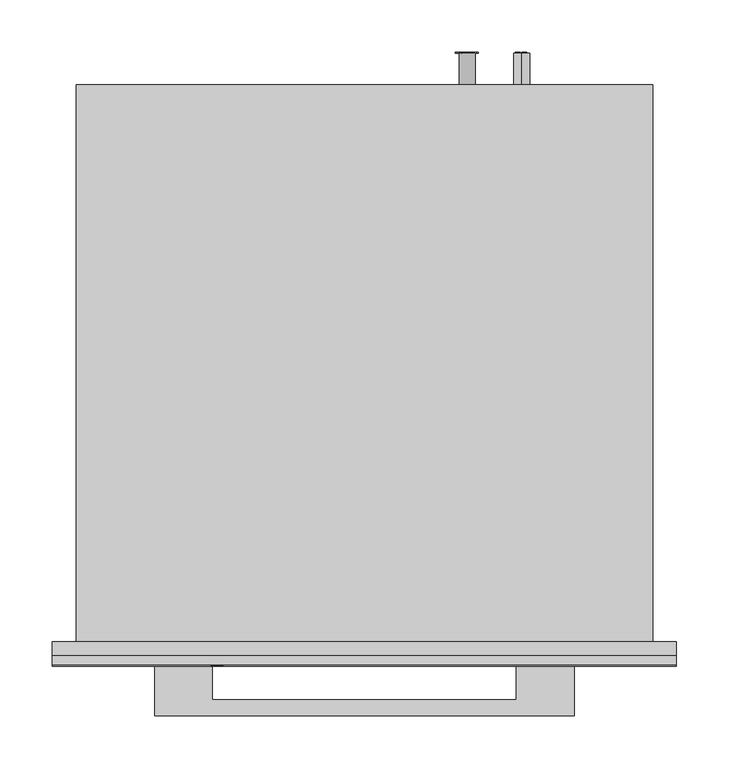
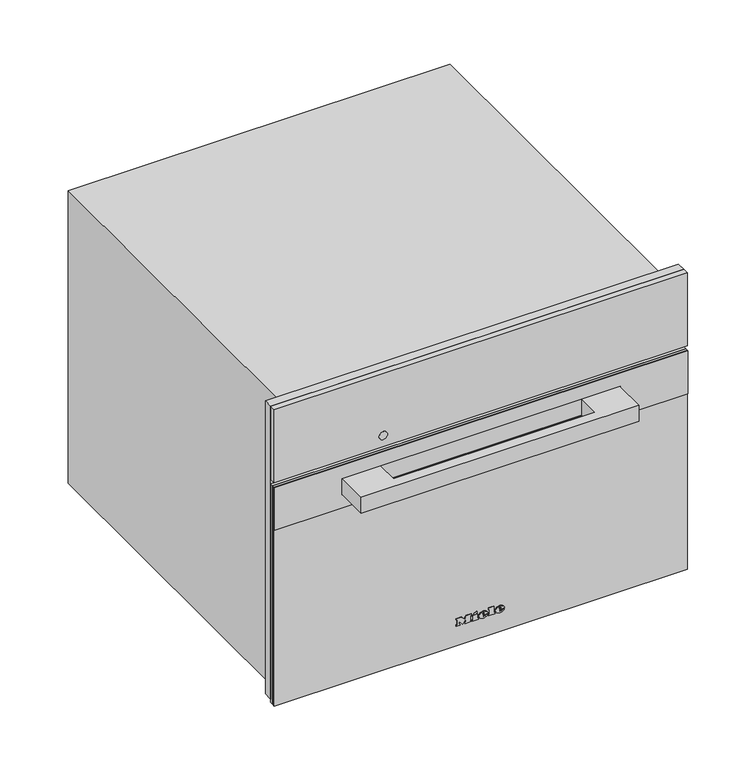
"""IFC4 building model written with IfcOpenShell, lengths in millimetres: proxy geometry, 11708770_BNE_DGM7645_EDST-CLST : 23764544_BNE_11708770_DGM7645_EDST-CLST."""

from ifc_helpers import new_model, si_unit, point, frame, frame_2d, origin, place, context, project, spatial, polyline, circle_curve, ellipse_curve, trimmed, segment, composite_curve, outline, extrude, faceted_brep, source, transform, mapped, element, save
from ifc_brep_helpers import plane_surface, cylinder_surface, revolved_surface, extruded_surface, advanced_brep


def specialty_equipment_ff86a98f(model_context):
    return source(origin(), model_context, "Body", "SolidModel", [
        extrude(outline(polyline([(455.0, 297.5), (455.0, -297.5), (9.0, -297.5), (9.0, -272.5), (344.0, -272.5), (344.0, 272.5), (9.0, 272.5), (9.0, 297.5), (455.0, 297.5)])), frame((0.0, -13.0, 0.0), z_axis=(0.0, 1.0, 0.0), x_axis=(0.0, 0.0, 1.0)), (0.0, 0.0, 1.0), 13.0),
        extrude(outline(polyline([(378.0, 95.9217896), (378.0, 97.4267862), (388.0435673, 100.1942402), (388.0435673, 98.9014806), (379.4295103, 96.7797951), (388.0470645, 94.3087512), (388.0470645, 92.4373937), (379.4121052, 89.9191482), (388.0472266, 87.8443938), (388.0472266, 86.5376524), (378.0, 89.2769667), (378.0, 90.6257455), (386.8347238, 93.3884733), (378.0, 95.9217896)])), frame((0.0, 561.0, 0.0), z_axis=(0.0, 1.0, 0.0), x_axis=(0.0, 0.0, 1.0)), (0.0, 0.0, 1.0), 1.0),
        extrude(outline(polyline([(388.0468463, 108.521488), (388.0468463, 107.2566067), (383.129594, 107.2566067), (388.0474898, 102.1074328), (388.0474898, 100.3597489), (383.9313111, 104.6695027), (378.0, 100.1858157), (378.0, 101.7358731), (383.0700777, 105.5685235), (381.4282746, 107.2823622), (378.0, 107.2823622), (378.0, 108.521488), (388.0468463, 108.521488)])), frame((0.0, 561.0, 0.0), z_axis=(0.0, 1.0, 0.0), x_axis=(0.0, 0.0, 1.0)), (0.0, 0.0, 1.0), 1.0),
        advanced_brep(
        [(150.0, 561.0, 410.5), (150.0, 561.0, 395.5), (144.4098301, 561.0, 398.0), (148.5, 561.0, 398.0), (148.5, 561.0, 408.0), (147.4955303, 561.0, 408.0), (147.4955303, 561.0, 399.0), (144.0315043, 561.0, 399.0), (144.0315043, 561.0, 398.4582978), (155.0, 561.0, 398.0), (155.0, 561.0, 408.0), (150.0, 561.0, 408.0), (150.0, 561.0, 407.0), (154.0, 561.0, 407.0), (154.0, 561.0, 403.5), (151.0, 561.0, 403.5), (151.0, 561.0, 402.5), (154.0, 561.0, 402.5), (154.0, 561.0, 399.0), (150.0, 561.0, 399.0), (150.0, 561.0, 398.0), (150.0, 531.0, 395.5), (150.0, 531.0, 410.5), (155.0, 562.0, 408.0), (155.0, 562.0, 398.0), (150.0, 562.0, 398.0), (150.0, 562.0, 399.0), (154.0, 562.0, 399.0), (154.0, 562.0, 402.5), (151.0, 562.0, 402.5), (151.0, 562.0, 403.5), (154.0, 562.0, 403.5), (154.0, 562.0, 407.0), (150.0, 562.0, 407.0), (150.0, 562.0, 408.0), (148.5, 562.0, 398.0), (144.0315043, 562.0, 398.0), (144.0315043, 562.0, 399.0), (147.4955303, 562.0, 399.0), (147.4955303, 562.0, 408.0), (148.5, 562.0, 408.0), (144.0315043, 561.0, 398.0)],
        [
            (0, 1, circle_curve(frame((150.0, 561.0, 403.0), z_axis=(0.0, 1.0, 0.0), x_axis=(0.0, 0.0, 1.0)), 7.5)),
            (1, 2, circle_curve(frame((150.0, 561.0, 403.0), z_axis=(0.0, 1.0, 0.0), x_axis=(0.0, 0.0, 1.0)), 7.5)),
            (2, 3),
            (3, 4),
            (4, 5),
            (5, 6),
            (6, 7),
            (7, 8),
            (8, 0, circle_curve(frame((150.0, 561.0, 403.0), z_axis=(0.0, 1.0, 0.0), x_axis=(0.0, 0.0, 1.0)), 7.5)),
            (9, 10),
            (10, 11),
            (11, 12),
            (12, 13),
            (13, 14),
            (14, 15),
            (15, 16),
            (16, 17),
            (17, 18),
            (18, 19),
            (19, 20),
            (20, 9),
            (21, 22, circle_curve(frame((150.0, 531.0, 403.0), z_axis=(0.0, -1.0, 0.0), x_axis=(0.0, 0.0, 1.0)), 7.5)),
            (22, 21, circle_curve(frame((150.0, 531.0, 403.0), z_axis=(0.0, -1.0, 0.0), x_axis=(0.0, 0.0, 1.0)), 7.5)),
            (0, 22),
            (21, 1),
            (8, 2, circle_curve(frame((150.0, 561.0, 403.0), z_axis=(0.0, -1.0, 0.0), x_axis=(0.0, 0.0, 1.0)), 7.5)),
            (23, 24),
            (24, 25),
            (25, 26),
            (26, 27),
            (27, 28),
            (28, 29),
            (29, 30),
            (30, 31),
            (31, 32),
            (32, 33),
            (33, 34),
            (34, 23),
            (35, 36),
            (36, 37),
            (37, 38),
            (38, 39),
            (39, 40),
            (40, 35),
            (8, 41),
            (41, 2),
            (23, 10),
            (9, 24),
            (20, 25),
            (19, 26),
            (18, 27),
            (17, 28),
            (16, 29),
            (15, 30),
            (14, 31),
            (13, 32),
            (12, 33),
            (11, 34),
            (35, 3),
            (41, 36),
            (7, 37),
            (6, 38),
            (5, 39),
            (4, 40),
        ],
        [
            plane_surface(frame((150.0, 561.0, 410.5), z_axis=(0.0, 1.0, 0.0), x_axis=(1.0, 0.0, 0.0))),
            plane_surface(frame((150.0, 531.0, 410.5), z_axis=(0.0, -1.0, 0.0), x_axis=(-1.0, 0.0, 0.0))),
            cylinder_surface(frame((150.0, 561.0, 403.0), z_axis=(0.0, -1.0, 0.0), x_axis=(0.0, 0.0, 1.0)), 7.5),
            plane_surface(frame((155.0, 562.0, 408.0), z_axis=(0.0, 1.0, 0.0), x_axis=(0.0, 0.0, -1.0))),
            plane_surface(frame((155.0, 561.0, 408.0), z_axis=(0.0, -1.0, 0.0), x_axis=(0.0, 0.0, 1.0))),
            plane_surface(frame((155.0, 562.0, 408.0), z_axis=(1.0, 0.0, 0.0), x_axis=(0.0, -1.0, 0.0))),
            plane_surface(frame((155.0, 562.0, 398.0), z_axis=(0.0, 0.0, -1.0), x_axis=(0.0, -1.0, 0.0))),
            plane_surface(frame((150.0, 562.0, 398.0), z_axis=(-1.0, 0.0, 0.0), x_axis=(0.0, -1.0, 0.0))),
            plane_surface(frame((150.0, 562.0, 399.0), z_axis=(0.0, 0.0, 1.0), x_axis=(0.0, -1.0, 0.0))),
            plane_surface(frame((154.0, 562.0, 399.0), z_axis=(-1.0, 0.0, 0.0), x_axis=(0.0, -1.0, 0.0))),
            plane_surface(frame((154.0, 562.0, 402.5), z_axis=(0.0, 0.0, -1.0), x_axis=(0.0, -1.0, 0.0))),
            plane_surface(frame((151.0, 562.0, 402.5), z_axis=(-1.0, 0.0, 0.0), x_axis=(0.0, -1.0, 0.0))),
            plane_surface(frame((151.0, 562.0, 403.5), z_axis=(0.0, 0.0, 1.0), x_axis=(0.0, -1.0, 0.0))),
            plane_surface(frame((154.0, 562.0, 403.5), z_axis=(-1.0, 0.0, 0.0), x_axis=(0.0, -1.0, 0.0))),
            plane_surface(frame((154.0, 562.0, 407.0), z_axis=(0.0, 0.0, -1.0), x_axis=(0.0, -1.0, 0.0))),
            plane_surface(frame((150.0, 562.0, 407.0), z_axis=(-1.0, 0.0, 0.0), x_axis=(0.0, -1.0, 0.0))),
            plane_surface(frame((150.0, 562.0, 408.0), z_axis=(0.0, 0.0, 1.0), x_axis=(0.0, -1.0, 0.0))),
            plane_surface(frame((148.5, 562.0, 398.0), z_axis=(0.0, 0.0, -1.0), x_axis=(0.0, -1.0, 0.0))),
            plane_surface(frame((144.0315043, 562.0, 398.0), z_axis=(-1.0, 0.0, 0.0), x_axis=(0.0, -1.0, 0.0))),
            plane_surface(frame((144.0315043, 562.0, 399.0), z_axis=(0.0, 0.0, 1.0), x_axis=(0.0, -1.0, 0.0))),
            plane_surface(frame((147.4955303, 562.0, 399.0), z_axis=(-1.0, 0.0, 0.0), x_axis=(0.0, -1.0, 0.0))),
            plane_surface(frame((147.4955303, 562.0, 408.0), z_axis=(0.0, 0.0, 1.0), x_axis=(0.0, -1.0, 0.0))),
            plane_surface(frame((148.5, 562.0, 408.0), z_axis=(1.0, 0.0, 0.0), x_axis=(0.0, -1.0, 0.0))),
        ],
        [
            (0, [[1, 2, 3, 4, 5, 6, 7, 8, 9], [10, 11, 12, 13, 14, 15, 16, 17, 18, 19, 20, 21]]),
            (1, [[22, 23]]),
            (2, [[-1, 24, -22, 25]]),
            (2, [[-23, -24, -9, 26, -2, -25]]),
            (3, [[27, 28, 29, 30, 31, 32, 33, 34, 35, 36, 37, 38]]),
            (3, [[39, 40, 41, 42, 43, 44]]),
            (4, [[45, 46, -26]]),
            (5, [[-27, 47, -10, 48]]),
            (6, [[-28, -48, -21, 49]]),
            (7, [[-29, -49, -20, 50]]),
            (8, [[-30, -50, -19, 51]]),
            (9, [[-31, -51, -18, 52]]),
            (10, [[-32, -52, -17, 53]]),
            (11, [[-33, -53, -16, 54]]),
            (12, [[-34, -54, -15, 55]]),
            (13, [[-35, -55, -14, 56]]),
            (14, [[-36, -56, -13, 57]]),
            (15, [[-37, -57, -12, 58]]),
            (16, [[-38, -58, -11, -47]]),
            (17, [[-39, 59, -3, -46, 60]]),
            (18, [[-40, -60, -45, -8, 61]]),
            (19, [[-41, -61, -7, 62]]),
            (20, [[-42, -62, -6, 63]]),
            (21, [[-43, -63, -5, 64]]),
            (22, [[-44, -64, -4, -59]]),
        ],
    ),
        extrude(outline(composite_curve([segment(trimmed(circle_curve(frame_2d((383.0, 98.0)), 7.5), [point((383.0, 105.5))], [point((383.0, 90.5))], False, "CARTESIAN"), True, "CONTINUOUS"), segment(trimmed(circle_curve(frame_2d((383.0, 98.0)), 7.5), [point((383.0, 90.5))], [point((383.0, 105.5))], False, "CARTESIAN"), True, "CONTINUOUS")], self_intersect=False)), frame((0.0, 531.0, 0.0), z_axis=(0.0, 1.0, 0.0), x_axis=(0.0, 0.0, 1.0)), (0.0, 0.0, 1.0), 30.0),
        faceted_brep([(275.0, 531.0, 445.0), (275.0, 531.0, 0.0), (-275.0, 531.0, 0.0), (-275.0, 531.0, 445.0), (275.0, 0.0, 445.0), (-275.0, 0.0, 445.0), (-275.0, 0.0, 0.0), (275.0, 0.0, 0.0), (-272.5, 0.0, 344.0), (272.5, 0.0, 344.0), (272.5, 0.0, 8.0), (-272.5, 0.0, 8.0), (272.5, 12.0, 344.0), (-272.5, 12.0, 344.0), (-272.5, 12.0, 8.0), (272.5, 12.0, 8.0), (161.0, 12.0, 286.0), (161.0, 12.0, 58.0), (-220.0, 12.0, 58.0), (-220.0, 12.0, 286.0), (161.0, 419.0, 286.0), (-220.0, 419.0, 286.0), (-220.0, 419.0, 58.0), (161.0, 419.0, 58.0)], [[[0, 1, 2, 3]], [[4, 5, 6, 7], [8, 9, 10, 11]], [[0, 3, 5, 4]], [[3, 2, 6, 5]], [[2, 1, 7, 6]], [[1, 0, 4, 7]], [[12, 13, 14, 15], [16, 17, 18, 19]], [[13, 12, 9, 8]], [[14, 13, 8, 11]], [[15, 14, 11, 10]], [[12, 15, 10, 9]], [[20, 21, 22, 23]], [[20, 23, 17, 16]], [[23, 22, 18, 17]], [[22, 21, 19, 18]], [[21, 20, 16, 19]]]),
        advanced_brep(
        [(26.2998, -23.0, 36.7018), (26.2998, -23.0, 37.8532), (33.9264, -23.0, 37.8532), (20.6568, -23.0, 37.8532), (23.7918, -23.0, 34.0), (33.7326, -23.0, 36.7018), (30.2898, -23.0, 36.7018), (27.5766, -23.0, 35.425), (26.2998, -23.0, 39.3124), (26.2998, -23.0, 40.555), (28.2492, -23.0, 40.555), (28.2492, -23.0, 39.3124), (26.2998, -22.0, 36.7018), (27.5766, -22.0, 35.425), (30.2898, -22.0, 36.7018), (33.7326, -22.0, 36.7018), (23.7918, -22.0, 34.0), (20.6568, -22.0, 37.8532), (33.9264, -22.0, 37.8532), (26.2998, -22.0, 37.8532), (26.2998, -22.0, 39.3124), (28.2492, -22.0, 39.3124), (28.2492, -22.0, 40.555), (26.2998, -22.0, 40.555)],
        [
            (0, 1),
            (1, 2),
            (2, 3, ellipse_curve(frame((27.2916, -23.0, 37.8532), z_axis=(0.0, -1.0, 0.0), x_axis=(-1.0, 0.0, 0.0)), 6.6348, 5.4834)),
            (3, 4, circle_curve(frame((25.0686622, -23.0, 38.2408), z_axis=(0.0, -1.0, 0.0), x_axis=(0.0, 0.0, -1.0)), 4.4288556)),
            (4, 5, circle_curve(frame((27.1587808, -23.0, 41.2504), z_axis=(0.0, -1.0, 0.0), x_axis=(0.0, 0.0, -1.0)), 7.9940516)),
            (5, 6),
            (6, 7, circle_curve(frame((28.1338588, -23.0, 37.762), z_axis=(0.0, 1.0, 0.0), x_axis=(0.0, 0.0, -1.0)), 2.4025208)),
            (7, 0, circle_curve(frame((27.5766, -23.0, 36.7018), z_axis=(0.0, 1.0, 0.0), x_axis=(0.0, 0.0, -1.0)), 1.2768)),
            (8, 9),
            (9, 10, circle_curve(frame((27.2745, -23.0, 40.555), z_axis=(0.0, 1.0, 0.0), x_axis=(0.0, 0.0, -1.0)), 0.9747)),
            (10, 11),
            (11, 8),
            (12, 13, circle_curve(frame((27.5766, -22.0, 36.7018), z_axis=(0.0, -1.0, 0.0), x_axis=(0.0, 0.0, -1.0)), 1.2768)),
            (13, 14, circle_curve(frame((28.1338588, -22.0, 37.762), z_axis=(0.0, -1.0, 0.0), x_axis=(0.0, 0.0, -1.0)), 2.4025208)),
            (14, 15),
            (15, 16, circle_curve(frame((27.1587808, -22.0, 41.2504), z_axis=(0.0, 1.0, 0.0), x_axis=(0.0, 0.0, -1.0)), 7.9940516)),
            (16, 17, circle_curve(frame((25.0686622, -22.0, 38.2408), z_axis=(0.0, 1.0, 0.0), x_axis=(0.0, 0.0, -1.0)), 4.4288556)),
            (17, 18, ellipse_curve(frame((27.2916, -22.0, 37.8532), z_axis=(0.0, 1.0, 0.0), x_axis=(-1.0, 0.0, 0.0)), 6.6348, 5.4834)),
            (18, 19),
            (19, 12),
            (20, 21),
            (21, 22),
            (22, 23, circle_curve(frame((27.2745, -22.0, 40.555), z_axis=(0.0, -1.0, 0.0), x_axis=(0.0, 0.0, -1.0)), 0.9747)),
            (23, 20),
            (0, 12),
            (19, 1),
            (18, 2),
            (5, 15),
            (14, 6),
            (17, 3),
            (13, 7),
            (16, 4),
            (8, 20),
            (23, 9),
            (22, 10),
            (21, 11),
        ],
        [
            plane_surface(frame((26.2998, -23.0, 37.8532), z_axis=(0.0, -1.0, 0.0), x_axis=(0.0, 0.0, 1.0))),
            plane_surface(frame((26.2998, -22.0, 37.8532), z_axis=(0.0, 1.0, 0.0), x_axis=(0.0, 0.0, -1.0))),
            plane_surface(frame((26.2998, -23.0, 36.7018), z_axis=(1.0, 0.0, 0.0), x_axis=(0.0, 1.0, 0.0))),
            plane_surface(frame((26.2998, -23.0, 37.8532), z_axis=(0.0, 0.0, -1.0), x_axis=(0.0, 1.0, 0.0))),
            plane_surface(frame((33.7326, -23.0, 36.7018), z_axis=(0.0, 0.0, 1.0), x_axis=(0.0, 1.0, 0.0))),
            extruded_surface(trimmed(ellipse_curve(frame((27.2916, -21.0, 37.8532), z_axis=(0.0, -1.0, 0.0), x_axis=(-1.0, 0.0, 0.0)), 6.6348, 5.4834), [point((33.9264, -21.0, 37.8532))], [point((20.6568, -21.0, 37.8532))], True, "CARTESIAN"), (0.0, -1.0, 0.0), 1.0),
            revolved_surface(polyline([(28.1338588, -22.0, 35.3594792), (28.1338588, -23.0, 35.3594792)]), (28.1338588, -22.0, 37.762), (0.0, 1.0, 0.0)),
            revolved_surface(polyline([(27.5766, -22.0, 35.425), (27.5766, -23.0, 35.425)]), (27.5766, -22.0, 36.7018), (0.0, 1.0, 0.0)),
            cylinder_surface(frame((25.0686622, -22.0, 38.2408), z_axis=(0.0, -1.0, 0.0), x_axis=(0.0, 0.0, -1.0)), 4.4288556),
            cylinder_surface(frame((27.1587808, -22.0, 41.2504), z_axis=(0.0, -1.0, 0.0), x_axis=(0.0, 0.0, -1.0)), 7.9940516),
            plane_surface(frame((26.2998, -23.0, 39.3124), z_axis=(1.0, 0.0, 0.0), x_axis=(0.0, 1.0, 0.0))),
            revolved_surface(polyline([(27.2745, -22.0, 39.5803), (27.2745, -23.0, 39.5803)]), (27.2745, -22.0, 40.555), (0.0, 1.0, 0.0)),
            plane_surface(frame((28.2492, -23.0, 40.555), z_axis=(-1.0, 0.0, 0.0), x_axis=(0.0, 1.0, 0.0))),
            plane_surface(frame((28.2492, -23.0, 39.3124), z_axis=(0.0, 0.0, 1.0), x_axis=(0.0, 1.0, 0.0))),
        ],
        [
            (0, [[1, 2, 3, 4, 5, 6, 7, 8], [9, 10, 11, 12]]),
            (1, [[13, 14, 15, 16, 17, 18, 19, 20], [21, 22, 23, 24]]),
            (2, [[-1, 25, -20, 26]]),
            (3, [[-2, -26, -19, 27]]),
            (4, [[-6, 28, -15, 29]]),
            (5, [[-3, -27, -18, 30]]),
            (6, [[-7, -29, -14, 31]]),
            (7, [[-8, -31, -13, -25]]),
            (8, [[-4, -30, -17, 32]]),
            (9, [[-5, -32, -16, -28]]),
            (10, [[-9, 33, -24, 34]]),
            (11, [[-10, -34, -23, 35]]),
            (12, [[-11, -35, -22, 36]]),
            (13, [[-12, -36, -21, -33]]),
        ],
    ),
        advanced_brep(
        [(2.508, -23.0, 36.7018), (2.508, -23.0, 37.8532), (10.1346, -23.0, 37.8532), (-3.135, -23.0, 37.8532), (0.0, -23.0, 34.0), (9.9408, -23.0, 36.7018), (6.498, -23.0, 36.7018), (3.7848, -23.0, 35.425), (2.508, -23.0, 39.3124), (2.508, -23.0, 40.555), (4.4574, -23.0, 40.555), (4.4574, -23.0, 39.3124), (2.508, -22.0, 36.7018), (3.7848, -22.0, 35.425), (6.498, -22.0, 36.7018), (9.9408, -22.0, 36.7018), (0.0, -22.0, 34.0), (-3.135, -22.0, 37.8532), (10.1346, -22.0, 37.8532), (2.508, -22.0, 37.8532), (2.508, -22.0, 39.3124), (4.4574, -22.0, 39.3124), (4.4574, -22.0, 40.555), (2.508, -22.0, 40.555)],
        [
            (0, 1),
            (1, 2),
            (2, 3, ellipse_curve(frame((3.4998, -23.0, 37.8532), z_axis=(0.0, -1.0, 0.0), x_axis=(-1.0, 0.0, 0.0)), 6.6348, 5.4834)),
            (3, 4, circle_curve(frame((1.2768622, -23.0, 38.2408), z_axis=(0.0, -1.0, 0.0), x_axis=(0.0, 0.0, -1.0)), 4.4288556)),
            (4, 5, circle_curve(frame((3.3669808, -23.0, 41.2504), z_axis=(0.0, -1.0, 0.0), x_axis=(0.0, 0.0, -1.0)), 7.9940516)),
            (5, 6),
            (6, 7, circle_curve(frame((4.3420588, -23.0, 37.762), z_axis=(0.0, 1.0, 0.0), x_axis=(0.0, 0.0, -1.0)), 2.4025208)),
            (7, 0, circle_curve(frame((3.7848, -23.0, 36.7018), z_axis=(0.0, 1.0, 0.0), x_axis=(0.0, 0.0, -1.0)), 1.2768)),
            (8, 9),
            (9, 10, circle_curve(frame((3.4827, -23.0, 40.555), z_axis=(0.0, 1.0, 0.0), x_axis=(0.0, 0.0, -1.0)), 0.9747)),
            (10, 11),
            (11, 8),
            (12, 13, circle_curve(frame((3.7848, -22.0, 36.7018), z_axis=(0.0, -1.0, 0.0), x_axis=(0.0, 0.0, -1.0)), 1.2768)),
            (13, 14, circle_curve(frame((4.3420588, -22.0, 37.762), z_axis=(0.0, -1.0, 0.0), x_axis=(0.0, 0.0, -1.0)), 2.4025208)),
            (14, 15),
            (15, 16, circle_curve(frame((3.3669808, -22.0, 41.2504), z_axis=(0.0, 1.0, 0.0), x_axis=(0.0, 0.0, -1.0)), 7.9940516)),
            (16, 17, circle_curve(frame((1.2768622, -22.0, 38.2408), z_axis=(0.0, 1.0, 0.0), x_axis=(0.0, 0.0, -1.0)), 4.4288556)),
            (17, 18, ellipse_curve(frame((3.4998, -22.0, 37.8532), z_axis=(0.0, 1.0, 0.0), x_axis=(-1.0, 0.0, 0.0)), 6.6348, 5.4834)),
            (18, 19),
            (19, 12),
            (20, 21),
            (21, 22),
            (22, 23, circle_curve(frame((3.4827, -22.0, 40.555), z_axis=(0.0, -1.0, 0.0), x_axis=(0.0, 0.0, -1.0)), 0.9747)),
            (23, 20),
            (0, 12),
            (19, 1),
            (18, 2),
            (5, 15),
            (14, 6),
            (17, 3),
            (13, 7),
            (16, 4),
            (8, 20),
            (23, 9),
            (22, 10),
            (21, 11),
        ],
        [
            plane_surface(frame((2.508, -23.0, 37.8532), z_axis=(0.0, -1.0, 0.0), x_axis=(0.0, 0.0, 1.0))),
            plane_surface(frame((2.508, -22.0, 37.8532), z_axis=(0.0, 1.0, 0.0), x_axis=(0.0, 0.0, -1.0))),
            plane_surface(frame((2.508, -23.0, 36.7018), z_axis=(1.0, 0.0, 0.0), x_axis=(0.0, 1.0, 0.0))),
            plane_surface(frame((2.508, -23.0, 37.8532), z_axis=(0.0, 0.0, -1.0), x_axis=(0.0, 1.0, 0.0))),
            plane_surface(frame((9.9408, -23.0, 36.7018), z_axis=(0.0, 0.0, 1.0), x_axis=(0.0, 1.0, 0.0))),
            extruded_surface(trimmed(ellipse_curve(frame((3.4998, -21.0, 37.8532), z_axis=(0.0, -1.0, 0.0), x_axis=(-1.0, 0.0, 0.0)), 6.6348, 5.4834), [point((10.1346, -21.0, 37.8532))], [point((-3.135, -21.0, 37.8532))], True, "CARTESIAN"), (0.0, -1.0, 0.0), 1.0),
            revolved_surface(polyline([(4.3420588, -22.0, 35.3594792), (4.3420588, -23.0, 35.3594792)]), (4.3420588, -22.0, 37.762), (0.0, 1.0, 0.0)),
            revolved_surface(polyline([(3.7848, -22.0, 35.425), (3.7848, -23.0, 35.425)]), (3.7848, -22.0, 36.7018), (0.0, 1.0, 0.0)),
            cylinder_surface(frame((1.2768622, -22.0, 38.2408), z_axis=(0.0, -1.0, 0.0), x_axis=(0.0, 0.0, -1.0)), 4.4288556),
            cylinder_surface(frame((3.3669808, -22.0, 41.2504), z_axis=(0.0, -1.0, 0.0), x_axis=(0.0, 0.0, -1.0)), 7.9940516),
            plane_surface(frame((2.508, -23.0, 39.3124), z_axis=(1.0, 0.0, 0.0), x_axis=(0.0, 1.0, 0.0))),
            revolved_surface(polyline([(3.4827, -22.0, 39.5803), (3.4827, -23.0, 39.5803)]), (3.4827, -22.0, 40.555), (0.0, 1.0, 0.0)),
            plane_surface(frame((4.4574, -23.0, 40.555), z_axis=(-1.0, 0.0, 0.0), x_axis=(0.0, 1.0, 0.0))),
            plane_surface(frame((4.4574, -23.0, 39.3124), z_axis=(0.0, 0.0, 1.0), x_axis=(0.0, 1.0, 0.0))),
        ],
        [
            (0, [[1, 2, 3, 4, 5, 6, 7, 8], [9, 10, 11, 12]]),
            (1, [[13, 14, 15, 16, 17, 18, 19, 20], [21, 22, 23, 24]]),
            (2, [[-1, 25, -20, 26]]),
            (3, [[-2, -26, -19, 27]]),
            (4, [[-6, 28, -15, 29]]),
            (5, [[-3, -27, -18, 30]]),
            (6, [[-7, -29, -14, 31]]),
            (7, [[-8, -31, -13, -25]]),
            (8, [[-4, -30, -17, 32]]),
            (9, [[-5, -32, -16, -28]]),
            (10, [[-9, 33, -24, 34]]),
            (11, [[-10, -34, -23, 35]]),
            (12, [[-11, -35, -22, 36]]),
            (13, [[-12, -36, -21, -33]]),
        ],
    ),
        extrude(outline(polyline([(44.7274, -9.9522), (42.8806, -9.0858), (44.6818, -5.2212), (46.5286, -6.0762), (44.7274, -9.9522)])), frame((0.0, -23.0, 0.0), z_axis=(0.0, 1.0, 0.0), x_axis=(0.0, 0.0, 1.0)), (0.0, 0.0, 1.0), 1.0),
        extrude(outline(polyline([(42.6298, -12.768), (40.5892, -12.768), (40.5892, -11.4114), (35.9152, -11.4114), (35.9152, -12.768), (34.0, -12.768), (34.0, -3.7734), (35.9152, -3.7734), (35.9152, -5.0958), (42.6298, -5.0958), (42.6298, -12.768)])), frame((0.0, -23.0, 0.0), z_axis=(0.0, 1.0, 0.0), x_axis=(0.0, 0.0, 1.0)), (0.0, 0.0, 1.0), 1.0),
        extrude(outline(polyline([(43.5418, 10.773), (43.5418, 12.141), (35.9152, 12.141), (35.9152, 10.773), (34.0, 10.773), (34.0, 20.0184), (35.9152, 20.0184), (35.9152, 18.6162), (45.4, 18.6162), (45.4, 10.773), (43.5418, 10.773)])), frame((0.0, -23.0, 0.0), z_axis=(0.0, 1.0, 0.0), x_axis=(0.0, 0.0, 1.0)), (0.0, 0.0, 1.0), 1.0),
        extrude(outline(polyline([(43.5418, -35.4882), (43.5418, -34.1088), (35.9152, -34.1088), (35.9152, -35.4882), (34.0, -35.4882), (34.0, -30.4722), (35.9152, -30.4722), (35.9152, -31.8402), (40.7429247, -31.8402), (34.0, -26.7444), (40.9402223, -21.6258), (35.9152, -21.6258), (35.9152, -23.028), (34.0, -23.028), (34.0, -13.9308), (35.9152, -13.9308), (35.9152, -15.3786), (43.5418, -15.3786), (43.5418, -13.9308), (45.4, -13.9308), (45.4, -20.8734), (41.125, -24.2022), (45.4, -27.5424), (45.4, -35.4882), (43.5418, -35.4882)])), frame((0.0, -23.0, 0.0), z_axis=(0.0, 1.0, 0.0), x_axis=(0.0, 0.0, 1.0)), (0.0, 0.0, 1.0), 1.0),
        extrude(outline(polyline([(297.5, -22.0), (-297.5, -22.0), (-297.5, -13.0), (297.5, -13.0), (297.5, -22.0)])), frame((0.0, 0.0, 344.0), z_axis=(0.0, 0.0, 1.0), x_axis=(1.0, 0.0, 0.0)), (0.0, 0.0, 1.0), 111.0),
        extrude(outline(composite_curve([segment(trimmed(circle_curve(frame_2d((361.0, -140.5745637)), 6.0), [point((361.0, -146.5745637))], [point((361.0, -134.5745637))], False, "CARTESIAN"), True, "CONTINUOUS"), segment(trimmed(circle_curve(frame_2d((361.0, -140.5745637)), 6.0), [point((361.0, -134.5745637))], [point((361.0, -146.5745637))], False, "CARTESIAN"), True, "CONTINUOUS")], self_intersect=False)), frame((0.0, -22.5, 0.0), z_axis=(0.0, 1.0, 0.0), x_axis=(0.0, 0.0, 1.0)), (0.0, 0.0, 1.0), 1.0),
        extrude(outline(polyline([(297.5, -18.0), (-297.5, -18.0), (-297.5, -13.0), (297.5, -13.0), (297.5, -18.0)])), frame((0.0, 0.0, 4.0), z_axis=(0.0, 0.0, 1.0), x_axis=(1.0, 0.0, 0.0)), (0.0, 0.0, 1.0), 333.0),
        extrude(outline(polyline([(-297.5, -18.0), (297.5, -18.0), (297.5, -22.0), (-297.5, -22.0), (-297.5, -18.0)])), frame((0.0, 0.0, 4.0), z_axis=(0.0, 0.0, 1.0), x_axis=(1.0, 0.0, 0.0)), (0.0, 0.0, 1.0), 333.0),
        extrude(outline(polyline([(-200.0, -70.3), (-200.0, -22.0), (-145.0, -22.0), (-145.0, -55.3), (145.0, -55.3), (145.0, -22.0), (200.0, -22.0), (200.0, -70.3), (-200.0, -70.3)])), frame((0.0, 0.0, 292.5), z_axis=(0.0, 0.0, 1.0), x_axis=(1.0, 0.0, 0.0)), (0.0, 0.0, 1.0), 24.0),
        extrude(outline(polyline([(337.0, 297.5), (337.0, -297.5), (272.0, -297.5), (272.0, 297.5), (337.0, 297.5)]), holes=[polyline([(317.0, -200.5), (317.0, 200.5), (292.0, 200.5), (292.0, -200.5), (317.0, -200.5)])]), frame((0.0, -23.3, 0.0), z_axis=(0.0, 1.0, 0.0), x_axis=(0.0, 0.0, 1.0)), (0.0, 0.0, 1.0), 1.3),
    ])


if __name__ == "__main__":
    model = new_model("IFC4")
    model_context = context("Model", 3, world=origin())
    ifc_project = project(units=[si_unit("LENGTHUNIT", "METRE", prefix="MILLI")], contexts=[model_context])
    site = spatial("IfcSite", under=ifc_project)
    building = spatial("IfcBuilding", under=site)
    placement = place(None, origin())
    specialty_equipment_shape = specialty_equipment_ff86a98f(model_context)
    element("IfcBuildingElementProxy", 1, Name="11708770_BNE_DGM7645_EDST-CLST : 23764544_BNE_11708770_DGM7645_EDST-CLST", ObjectType="11708770_BNE_DGM7645_EDST-CLST : 23764544_BNE_11708770_DGM7645_EDST-CLST", at=placement, inside=building, context=model_context, shape_type="MappedRepresentation", body=[
        mapped(specialty_equipment_shape, transform((0.0, 0.0, 0.0), x_axis=(1.0, 0.0, 0.0), y_axis=(0.0, 1.0, 0.0), z_axis=(0.0, 0.0, 1.0))),
    ])
    save(model, "model.ifc")
